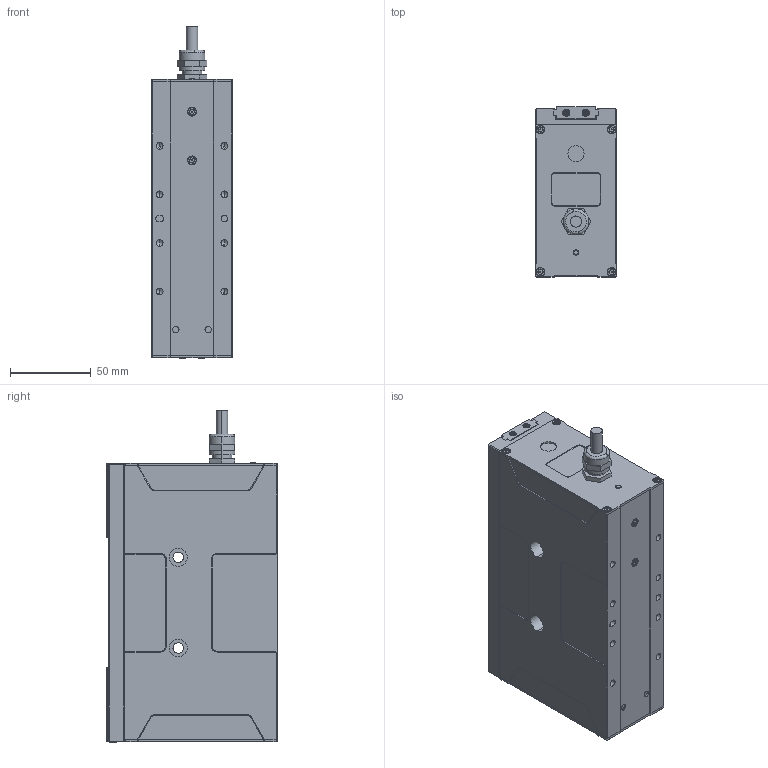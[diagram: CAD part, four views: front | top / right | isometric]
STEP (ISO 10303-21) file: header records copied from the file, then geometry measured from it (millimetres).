
FILE_DESCRIPTION (( 'STEP AP214' ), '1' );
FILE_NAME ('EFG-80-200（外发）.STEP', '2023-10-26T02:28:22', ( '' ), ( '' ), 'SwSTEP 2.0', 'SolidWorks 2020', '' );
FILE_SCHEMA (( 'AUTOMOTIVE_DESIGN' ));
Length unit declared in the file: millimetre
Products named in the file (3): EFG-80-200-掛极窒煦; EFG-80-200（外发）; EFG-80-200-忒硌窒煦
Assembly tree (3 placements, depth 2):
  EFG-80-200（外发）
    EFG-80-200-掛极窒煦
    EFG-80-200-忒硌窒煦  x2
Bounding box: 50 x 105 x 205.05 mm (x, y, z)
Volume: 872618.4 mm3; surface area: 117719.7 mm2
Topology: 26 solids, 26 shells, 975 faces, 2376 edges, 1512 vertices
Faces by surface type: plane 433, cylinder 382, cone 156, torus 2, bspline 2
Entity records: 32057 total; most frequent: DIRECTION 4271, CARTESIAN_POINT 4165, ORIENTED_EDGE 3862, EDGE_CURVE 1931, AXIS2_PLACEMENT_3D 1555, VERTEX_POINT 1253, VECTOR 1161, LINE 1161
